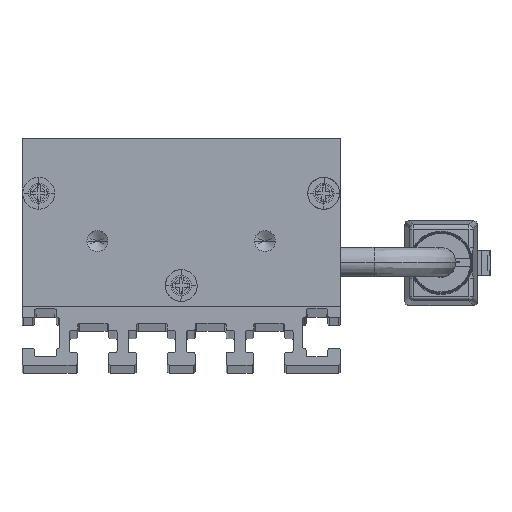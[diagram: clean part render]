
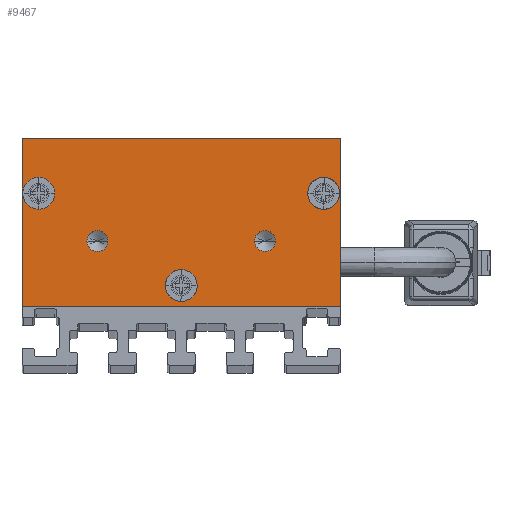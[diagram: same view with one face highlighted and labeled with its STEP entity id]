
A CAD part, top view. The second image highlights one B-rep face of the part: STEP entity #9467.
In plain terms, the highlighted planar face has unit normal (0, 0, 1) as drawn and (0, 0, -1) by its records, which use the part's own axes.
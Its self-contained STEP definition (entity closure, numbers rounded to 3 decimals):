
#63 = DIRECTION ( 'NONE',  ( -1., 0., 0. ) ) ;
#168 = DIRECTION ( 'NONE',  ( 0., 0., -1. ) ) ;
#221 = EDGE_LOOP ( 'NONE', ( #16366, #7463, #8634, #10401 ) ) ;
#380 = CARTESIAN_POINT ( 'NONE',  ( -11.25, 7.8, -2.5 ) ) ;
#560 = ORIENTED_EDGE ( 'NONE', *, *, #3752, .F. ) ;
#704 = AXIS2_PLACEMENT_3D ( 'NONE', #11477, #4948, #11393 ) ;
#749 = ORIENTED_EDGE ( 'NONE', *, *, #6115, .F. ) ;
#771 = VERTEX_POINT ( 'NONE', #12813 ) ;
#971 = CIRCLE ( 'NONE', #12618, 1.9 ) ;
#1075 = CIRCLE ( 'NONE', #5858, 1.25 ) ;
#1243 = CARTESIAN_POINT ( 'NONE',  ( 1.9, 2.5, -2.5 ) ) ;
#1607 = CARTESIAN_POINT ( 'NONE',  ( -1.9, 2.5, -2.5 ) ) ;
#1657 = DIRECTION ( 'NONE',  ( -1., 0., 0. ) ) ;
#1704 = CIRCLE ( 'NONE', #12835, 1.9 ) ;
#1764 = VERTEX_POINT ( 'NONE', #380 ) ;
#2014 = VERTEX_POINT ( 'NONE', #13814 ) ;
#2379 = CARTESIAN_POINT ( 'NONE',  ( 19., 20., -2.5 ) ) ;
#2460 = CARTESIAN_POINT ( 'NONE',  ( 0., 2.5, -2.5 ) ) ;
#2538 = DIRECTION ( 'NONE',  ( 0., 0., -1. ) ) ;
#2539 = VERTEX_POINT ( 'NONE', #15614 ) ;
#2550 = VECTOR ( 'NONE', #63, 1000. ) ;
#2552 = DIRECTION ( 'NONE',  ( 0., 0., -1. ) ) ;
#3051 = CARTESIAN_POINT ( 'NONE',  ( 17., 13.5, -2.5 ) ) ;
#3201 = DIRECTION ( 'NONE',  ( 1., 0., 0. ) ) ;
#3207 = ORIENTED_EDGE ( 'NONE', *, *, #15533, .F. ) ;
#3222 = EDGE_CURVE ( 'NONE', #13597, #4474, #12533, .T. ) ;
#3276 = FACE_BOUND ( 'NONE', #11232, .T. ) ;
#3536 = AXIS2_PLACEMENT_3D ( 'NONE', #13662, #11994, #8585 ) ;
#3687 = DIRECTION ( 'NONE',  ( 0., 1., 0. ) ) ;
#3714 = EDGE_CURVE ( 'NONE', #3869, #11988, #14800, .T. ) ;
#3752 = EDGE_CURVE ( 'NONE', #13367, #2014, #1704, .T. ) ;
#3869 = VERTEX_POINT ( 'NONE', #4935 ) ;
#3913 = CARTESIAN_POINT ( 'NONE',  ( -10., 7.8, -2.5 ) ) ;
#4095 = VECTOR ( 'NONE', #11379, 1000. ) ;
#4105 = CARTESIAN_POINT ( 'NONE',  ( 19., 0., -2.5 ) ) ;
#4307 = CIRCLE ( 'NONE', #15424, 1.9 ) ;
#4428 = CIRCLE ( 'NONE', #12906, 1.9 ) ;
#4474 = VERTEX_POINT ( 'NONE', #1243 ) ;
#4697 = CARTESIAN_POINT ( 'NONE',  ( 15.1, 13.5, -2.5 ) ) ;
#4889 = CARTESIAN_POINT ( 'NONE',  ( -19., 20., -2.5 ) ) ;
#4915 = EDGE_CURVE ( 'NONE', #2539, #11049, #6471, .T. ) ;
#4935 = CARTESIAN_POINT ( 'NONE',  ( -19., 0., -2.5 ) ) ;
#4948 = DIRECTION ( 'NONE',  ( 0., 0., -1. ) ) ;
#5645 = ORIENTED_EDGE ( 'NONE', *, *, #15671, .F. ) ;
#5858 = AXIS2_PLACEMENT_3D ( 'NONE', #9730, #15046, #9810 ) ;
#5925 = ORIENTED_EDGE ( 'NONE', *, *, #3222, .F. ) ;
#6017 = CARTESIAN_POINT ( 'NONE',  ( -18.9, 13.5, -2.5 ) ) ;
#6061 = ORIENTED_EDGE ( 'NONE', *, *, #7522, .F. ) ;
#6074 = EDGE_LOOP ( 'NONE', ( #560, #749 ) ) ;
#6115 = EDGE_CURVE ( 'NONE', #2014, #13367, #14956, .T. ) ;
#6162 = CARTESIAN_POINT ( 'NONE',  ( -19., 20., -2.5 ) ) ;
#6390 = CARTESIAN_POINT ( 'NONE',  ( 11.25, 7.8, -2.5 ) ) ;
#6406 = DIRECTION ( 'NONE',  ( -1., 0., 0. ) ) ;
#6471 = LINE ( 'NONE', #4889, #2550 ) ;
#6475 = ORIENTED_EDGE ( 'NONE', *, *, #10162, .F. ) ;
#6816 = DIRECTION ( 'NONE',  ( -1., 0., 0. ) ) ;
#6889 = CARTESIAN_POINT ( 'NONE',  ( -17., 13.5, -2.5 ) ) ;
#7389 = EDGE_LOOP ( 'NONE', ( #6061, #3207 ) ) ;
#7396 = CIRCLE ( 'NONE', #16403, 1.25 ) ;
#7463 = ORIENTED_EDGE ( 'NONE', *, *, #4915, .F. ) ;
#7522 = EDGE_CURVE ( 'NONE', #1764, #12498, #9019, .T. ) ;
#7590 = DIRECTION ( 'NONE',  ( -1., 0., 0. ) ) ;
#7725 = CARTESIAN_POINT ( 'NONE',  ( -8.75, 7.8, -2.5 ) ) ;
#7751 = DIRECTION ( 'NONE',  ( -1., 0., 0. ) ) ;
#7799 = CARTESIAN_POINT ( 'NONE',  ( 18.9, 13.5, -2.5 ) ) ;
#8455 = EDGE_LOOP ( 'NONE', ( #5645, #14245 ) ) ;
#8539 = AXIS2_PLACEMENT_3D ( 'NONE', #15718, #11970, #3201 ) ;
#8585 = DIRECTION ( 'NONE',  ( -1., 0., 0. ) ) ;
#8634 = ORIENTED_EDGE ( 'NONE', *, *, #11911, .F. ) ;
#8732 = EDGE_CURVE ( 'NONE', #4474, #13597, #4307, .T. ) ;
#8893 = CARTESIAN_POINT ( 'NONE',  ( -17., 13.5, -2.5 ) ) ;
#9019 = CIRCLE ( 'NONE', #12747, 1.25 ) ;
#9198 = VERTEX_POINT ( 'NONE', #4697 ) ;
#9280 = DIRECTION ( 'NONE',  ( 0., 0., -1. ) ) ;
#9467 = ADVANCED_FACE ( 'NONE', ( #9633, #10562, #10803, #3276, #15874, #11817 ), #9553, .F. ) ;
#9553 = PLANE ( 'NONE',  #8539 ) ;
#9633 = FACE_BOUND ( 'NONE', #8455, .T. ) ;
#9730 = CARTESIAN_POINT ( 'NONE',  ( 10., 7.8, -2.5 ) ) ;
#9810 = DIRECTION ( 'NONE',  ( -1., 0., 0. ) ) ;
#9988 = CARTESIAN_POINT ( 'NONE',  ( 17., 13.5, -2.5 ) ) ;
#10076 = ORIENTED_EDGE ( 'NONE', *, *, #8732, .F. ) ;
#10131 = DIRECTION ( 'NONE',  ( -1., 0., 0. ) ) ;
#10162 = EDGE_CURVE ( 'NONE', #11624, #771, #7396, .T. ) ;
#10396 = DIRECTION ( 'NONE',  ( 0., 0., -1. ) ) ;
#10401 = ORIENTED_EDGE ( 'NONE', *, *, #3714, .F. ) ;
#10562 = FACE_BOUND ( 'NONE', #13245, .T. ) ;
#10803 = FACE_BOUND ( 'NONE', #6074, .T. ) ;
#10890 = CARTESIAN_POINT ( 'NONE',  ( -19., 0., -2.5 ) ) ;
#11049 = VERTEX_POINT ( 'NONE', #6162 ) ;
#11232 = EDGE_LOOP ( 'NONE', ( #15738, #6475 ) ) ;
#11241 = AXIS2_PLACEMENT_3D ( 'NONE', #6889, #15673, #1657 ) ;
#11274 = LINE ( 'NONE', #13539, #15142 ) ;
#11379 = DIRECTION ( 'NONE',  ( 1., 0., 0. ) ) ;
#11393 = DIRECTION ( 'NONE',  ( -1., 0., 0. ) ) ;
#11477 = CARTESIAN_POINT ( 'NONE',  ( -10., 7.8, -2.5 ) ) ;
#11624 = VERTEX_POINT ( 'NONE', #6390 ) ;
#11799 = EDGE_CURVE ( 'NONE', #771, #11624, #1075, .T. ) ;
#11817 = FACE_OUTER_BOUND ( 'NONE', #221, .T. ) ;
#11911 = EDGE_CURVE ( 'NONE', #11988, #2539, #13725, .T. ) ;
#11970 = DIRECTION ( 'NONE',  ( 0., 0., 1. ) ) ;
#11988 = VERTEX_POINT ( 'NONE', #4105 ) ;
#11994 = DIRECTION ( 'NONE',  ( 0., 0., -1. ) ) ;
#12498 = VERTEX_POINT ( 'NONE', #7725 ) ;
#12533 = CIRCLE ( 'NONE', #3536, 1.9 ) ;
#12618 = AXIS2_PLACEMENT_3D ( 'NONE', #3051, #10396, #7751 ) ;
#12639 = DIRECTION ( 'NONE',  ( 0., 0., -1. ) ) ;
#12682 = EDGE_CURVE ( 'NONE', #11049, #3869, #11274, .T. ) ;
#12747 = AXIS2_PLACEMENT_3D ( 'NONE', #3913, #168, #6406 ) ;
#12813 = CARTESIAN_POINT ( 'NONE',  ( 8.75, 7.8, -2.5 ) ) ;
#12835 = AXIS2_PLACEMENT_3D ( 'NONE', #8893, #2538, #10131 ) ;
#12906 = AXIS2_PLACEMENT_3D ( 'NONE', #9988, #2552, #7590 ) ;
#12911 = VERTEX_POINT ( 'NONE', #7799 ) ;
#13245 = EDGE_LOOP ( 'NONE', ( #5925, #10076 ) ) ;
#13367 = VERTEX_POINT ( 'NONE', #6017 ) ;
#13539 = CARTESIAN_POINT ( 'NONE',  ( -19., 20., -2.5 ) ) ;
#13597 = VERTEX_POINT ( 'NONE', #1607 ) ;
#13662 = CARTESIAN_POINT ( 'NONE',  ( 0., 2.5, -2.5 ) ) ;
#13725 = LINE ( 'NONE', #2379, #14330 ) ;
#13727 = CIRCLE ( 'NONE', #704, 1.25 ) ;
#13814 = CARTESIAN_POINT ( 'NONE',  ( -15.1, 13.5, -2.5 ) ) ;
#14059 = DIRECTION ( 'NONE',  ( -1., 0., 0. ) ) ;
#14245 = ORIENTED_EDGE ( 'NONE', *, *, #15609, .F. ) ;
#14330 = VECTOR ( 'NONE', #3687, 1000. ) ;
#14800 = LINE ( 'NONE', #10890, #4095 ) ;
#14956 = CIRCLE ( 'NONE', #11241, 1.9 ) ;
#15046 = DIRECTION ( 'NONE',  ( 0., 0., -1. ) ) ;
#15142 = VECTOR ( 'NONE', #16347, 1000. ) ;
#15424 = AXIS2_PLACEMENT_3D ( 'NONE', #2460, #12639, #14059 ) ;
#15533 = EDGE_CURVE ( 'NONE', #12498, #1764, #13727, .T. ) ;
#15609 = EDGE_CURVE ( 'NONE', #12911, #9198, #4428, .T. ) ;
#15614 = CARTESIAN_POINT ( 'NONE',  ( 19., 20., -2.5 ) ) ;
#15671 = EDGE_CURVE ( 'NONE', #9198, #12911, #971, .T. ) ;
#15673 = DIRECTION ( 'NONE',  ( 0., 0., -1. ) ) ;
#15718 = CARTESIAN_POINT ( 'NONE',  ( 0., 0., -2.5 ) ) ;
#15738 = ORIENTED_EDGE ( 'NONE', *, *, #11799, .F. ) ;
#15760 = CARTESIAN_POINT ( 'NONE',  ( 10., 7.8, -2.5 ) ) ;
#15874 = FACE_BOUND ( 'NONE', #7389, .T. ) ;
#16347 = DIRECTION ( 'NONE',  ( 0., -1., 0. ) ) ;
#16366 = ORIENTED_EDGE ( 'NONE', *, *, #12682, .F. ) ;
#16403 = AXIS2_PLACEMENT_3D ( 'NONE', #15760, #9280, #6816 ) ;
